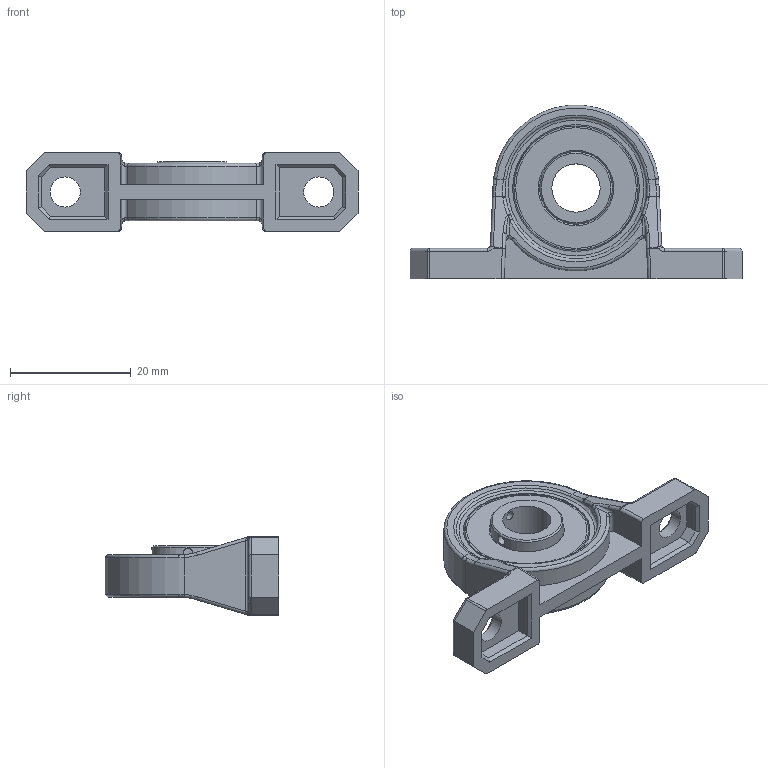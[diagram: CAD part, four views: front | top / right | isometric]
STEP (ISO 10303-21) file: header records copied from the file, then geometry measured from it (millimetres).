
FILE_DESCRIPTION(/* description */ ('STEP AP242 Edition 2','CAx-IF Rec.Pracs.---Representation and Presentation of Product Manufacturing Information (PMI)---4.0---2014-10-13','CAx-IF Rec.Pracs.---3D Tessellated Geometry---0.4---2014-09-14','2;1','CAx-IF Rec.Pracs.---User Defined Attributes---1.5---2016-08-15'),/* implementation_level */ '2;1');
FILE_NAME(/* name */ 'Lead Screw Bearing Block',/* time_stamp */ '2025-11-29T19:49:45Z',/* author */ (''),/* organization */ (''),/* preprocessor_version */ 'ST-DEVELOPER v20',/* originating_system */ 'ONSHAPE BY PTC INC, 1.207',/* authorisation */ ' ');
FILE_SCHEMA (('AP242_MANAGED_MODEL_BASED_3D_ENGINEERING_MIM_LF { 1 0 10303 442 3 1 4 }'));
Length unit declared in the file: metre
Products named in the file (4): Power Screw Bearing Part - KP08 SUPPORT BEARING-Edited
Bounding box: 55 x 28.7 x 13 mm (x, y, z)
Volume: 5590.6 mm3; surface area: 5723.3 mm2
Topology: 4 solids, 4 shells, 197 faces, 466 edges, 267 vertices
Faces by surface type: plane 63, cylinder 59, bspline 42, torus 15, sphere 12, cone 6
Full cylindrical faces by diameter (mm): 1.5 x2, 5 x2, 8 x1, 12 x2, 20 x2, 21 x1
Entity records: 6831 total; most frequent: CARTESIAN_POINT 2573, ORIENTED_EDGE 868, DIRECTION 824, EDGE_CURVE 434, AXIS2_PLACEMENT_3D 325, VERTEX_POINT 266, EDGE_LOOP 234, FACE_BOUND 234
